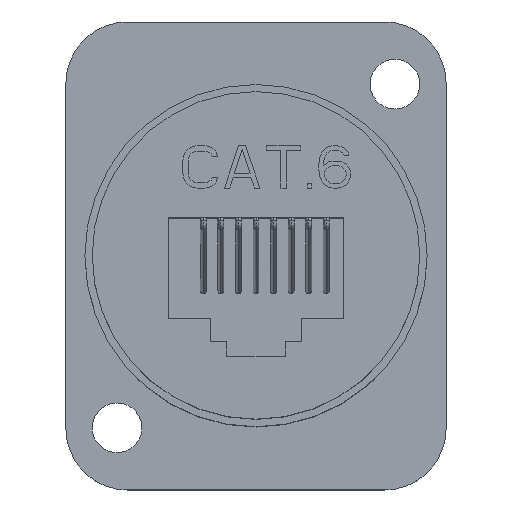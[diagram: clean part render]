
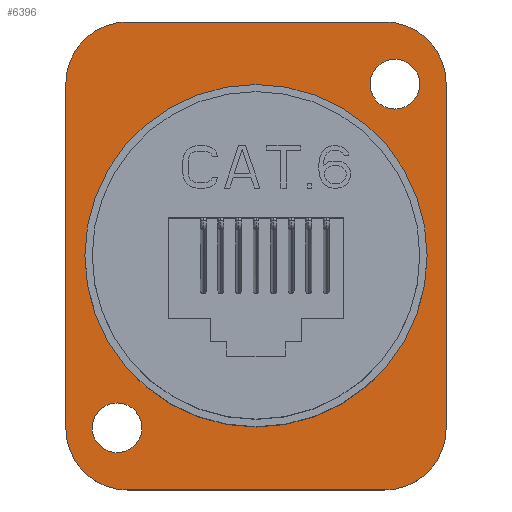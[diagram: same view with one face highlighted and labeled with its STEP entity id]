
A CAD part, top view. The second image highlights one B-rep face of the part: STEP entity #6396.
In plain terms, the highlighted planar face has unit normal (0, 0, 1).
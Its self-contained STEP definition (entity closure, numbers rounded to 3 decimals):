
#147=CARTESIAN_POINT('',(-8.8,-11.8,4.7));
#148=DIRECTION('',(0.,0.,-1.));
#149=DIRECTION('',(0.,-1.,0.));
#150=AXIS2_PLACEMENT_3D('',#147,#148,#149);
#152=DIRECTION('',(0.,1.,0.));
#153=VECTOR('',#152,23.6);
#154=CARTESIAN_POINT('',(-13.,-11.8,4.7));
#155=LINE('',#154,#153);
#156=CARTESIAN_POINT('',(-8.8,11.8,4.7));
#157=DIRECTION('',(0.,0.,-1.));
#158=DIRECTION('',(-1.,0.,0.));
#159=AXIS2_PLACEMENT_3D('',#156,#157,#158);
#161=DIRECTION('',(1.,0.,0.));
#162=VECTOR('',#161,17.6);
#163=CARTESIAN_POINT('',(-8.8,16.,4.7));
#164=LINE('',#163,#162);
#165=CARTESIAN_POINT('',(8.8,11.8,4.7));
#166=DIRECTION('',(0.,0.,-1.));
#167=DIRECTION('',(0.,1.,0.));
#168=AXIS2_PLACEMENT_3D('',#165,#166,#167);
#170=DIRECTION('',(0.,-1.,0.));
#171=VECTOR('',#170,23.6);
#172=CARTESIAN_POINT('',(13.,11.8,4.7));
#173=LINE('',#172,#171);
#174=CARTESIAN_POINT('',(8.8,-11.8,4.7));
#175=DIRECTION('',(0.,0.,-1.));
#176=DIRECTION('',(1.,0.,0.));
#177=AXIS2_PLACEMENT_3D('',#174,#175,#176);
#179=DIRECTION('',(-1.,0.,0.));
#180=VECTOR('',#179,17.6);
#181=CARTESIAN_POINT('',(8.8,-16.,4.7));
#182=LINE('',#181,#180);
#183=CARTESIAN_POINT('',(0.,0.,4.7));
#184=DIRECTION('',(0.,0.,1.));
#185=DIRECTION('',(0.,-1.,0.));
#186=AXIS2_PLACEMENT_3D('',#183,#184,#185);
#188=CARTESIAN_POINT('',(0.,0.,4.7));
#189=DIRECTION('',(0.,0.,1.));
#190=DIRECTION('',(0.,1.,0.));
#191=AXIS2_PLACEMENT_3D('',#188,#189,#190);
#193=CARTESIAN_POINT('',(9.5,11.75,4.7));
#194=DIRECTION('',(0.,0.,1.));
#195=DIRECTION('',(1.,0.,0.));
#196=AXIS2_PLACEMENT_3D('',#193,#194,#195);
#198=CARTESIAN_POINT('',(9.5,11.75,4.7));
#199=DIRECTION('',(0.,0.,1.));
#200=DIRECTION('',(-1.,0.,0.));
#201=AXIS2_PLACEMENT_3D('',#198,#199,#200);
#203=CARTESIAN_POINT('',(-9.5,-11.75,4.7));
#204=DIRECTION('',(0.,0.,1.));
#205=DIRECTION('',(1.,0.,0.));
#206=AXIS2_PLACEMENT_3D('',#203,#204,#205);
#208=CARTESIAN_POINT('',(-9.5,-11.75,4.7));
#209=DIRECTION('',(0.,0.,1.));
#210=DIRECTION('',(-1.,0.,0.));
#211=AXIS2_PLACEMENT_3D('',#208,#209,#210);
#4857=CARTESIAN_POINT('',(-11.2,-11.75,4.7));
#4858=VERTEX_POINT('',#4857);
#4859=CARTESIAN_POINT('',(-7.8,-11.75,4.7));
#4860=VERTEX_POINT('',#4859);
#4861=CARTESIAN_POINT('',(-8.8,-16.,4.7));
#4862=CARTESIAN_POINT('',(-13.,-11.8,4.7));
#4863=VERTEX_POINT('',#4861);
#4864=VERTEX_POINT('',#4862);
#4865=CARTESIAN_POINT('',(-13.,11.8,4.7));
#4866=VERTEX_POINT('',#4865);
#4867=CARTESIAN_POINT('',(-8.8,16.,4.7));
#4868=VERTEX_POINT('',#4867);
#4869=CARTESIAN_POINT('',(8.8,16.,4.7));
#4870=VERTEX_POINT('',#4869);
#4871=CARTESIAN_POINT('',(13.,11.8,4.7));
#4872=VERTEX_POINT('',#4871);
#4873=CARTESIAN_POINT('',(13.,-11.8,4.7));
#4874=VERTEX_POINT('',#4873);
#4875=CARTESIAN_POINT('',(8.8,-16.,4.7));
#4876=VERTEX_POINT('',#4875);
#4877=CARTESIAN_POINT('',(0.,-11.7,4.7));
#4878=CARTESIAN_POINT('',(0.,11.7,4.7));
#4879=VERTEX_POINT('',#4877);
#4880=VERTEX_POINT('',#4878);
#4881=CARTESIAN_POINT('',(11.2,11.75,4.7));
#4882=CARTESIAN_POINT('',(7.8,11.75,4.7));
#4883=VERTEX_POINT('',#4881);
#4884=VERTEX_POINT('',#4882);
#6363=CARTESIAN_POINT('',(0.,0.,4.7));
#6364=DIRECTION('',(0.,0.,1.));
#6365=DIRECTION('',(1.,0.,0.));
#6366=AXIS2_PLACEMENT_3D('',#6363,#6364,#6365);
#6367=PLANE('',#6366);
#6368=ORIENTED_EDGE('',*,*,#6259,.T.);
#6369=ORIENTED_EDGE('',*,*,#6275,.T.);
#6370=ORIENTED_EDGE('',*,*,#6288,.T.);
#6371=ORIENTED_EDGE('',*,*,#6301,.T.);
#6372=ORIENTED_EDGE('',*,*,#6316,.T.);
#6373=ORIENTED_EDGE('',*,*,#6331,.T.);
#6374=ORIENTED_EDGE('',*,*,#6344,.T.);
#6375=ORIENTED_EDGE('',*,*,#6356,.T.);
#6376=EDGE_LOOP('',(#6368,#6369,#6370,#6371,#6372,#6373,#6374,#6375));
#6377=FACE_OUTER_BOUND('',#6376,.F.);
#6379=ORIENTED_EDGE('',*,*,#6378,.T.);
#6381=ORIENTED_EDGE('',*,*,#6380,.T.);
#6382=EDGE_LOOP('',(#6379,#6381));
#6383=FACE_BOUND('',#6382,.F.);
#6385=ORIENTED_EDGE('',*,*,#6384,.T.);
#6387=ORIENTED_EDGE('',*,*,#6386,.T.);
#6388=EDGE_LOOP('',(#6385,#6387));
#6389=FACE_BOUND('',#6388,.F.);
#6391=ORIENTED_EDGE('',*,*,#6390,.T.);
#6393=ORIENTED_EDGE('',*,*,#6392,.T.);
#6394=EDGE_LOOP('',(#6391,#6393));
#6395=FACE_BOUND('',#6394,.F.);
#6396=ADVANCED_FACE('',(#6377,#6383,#6389,#6395),#6367,.T.);
#151=CIRCLE('',#150,4.2);
#160=CIRCLE('',#159,4.2);
#169=CIRCLE('',#168,4.2);
#178=CIRCLE('',#177,4.2);
#187=CIRCLE('',#186,11.7);
#192=CIRCLE('',#191,11.7);
#197=CIRCLE('',#196,1.7);
#202=CIRCLE('',#201,1.7);
#207=CIRCLE('',#206,1.7);
#212=CIRCLE('',#211,1.7);
#6259=EDGE_CURVE('',#4863,#4864,#151,.T.);
#6275=EDGE_CURVE('',#4864,#4866,#155,.T.);
#6288=EDGE_CURVE('',#4866,#4868,#160,.T.);
#6301=EDGE_CURVE('',#4868,#4870,#164,.T.);
#6316=EDGE_CURVE('',#4870,#4872,#169,.T.);
#6331=EDGE_CURVE('',#4872,#4874,#173,.T.);
#6344=EDGE_CURVE('',#4874,#4876,#178,.T.);
#6356=EDGE_CURVE('',#4876,#4863,#182,.T.);
#6378=EDGE_CURVE('',#4879,#4880,#187,.T.);
#6380=EDGE_CURVE('',#4880,#4879,#192,.T.);
#6384=EDGE_CURVE('',#4883,#4884,#197,.T.);
#6386=EDGE_CURVE('',#4884,#4883,#202,.T.);
#6390=EDGE_CURVE('',#4860,#4858,#207,.T.);
#6392=EDGE_CURVE('',#4858,#4860,#212,.T.);
